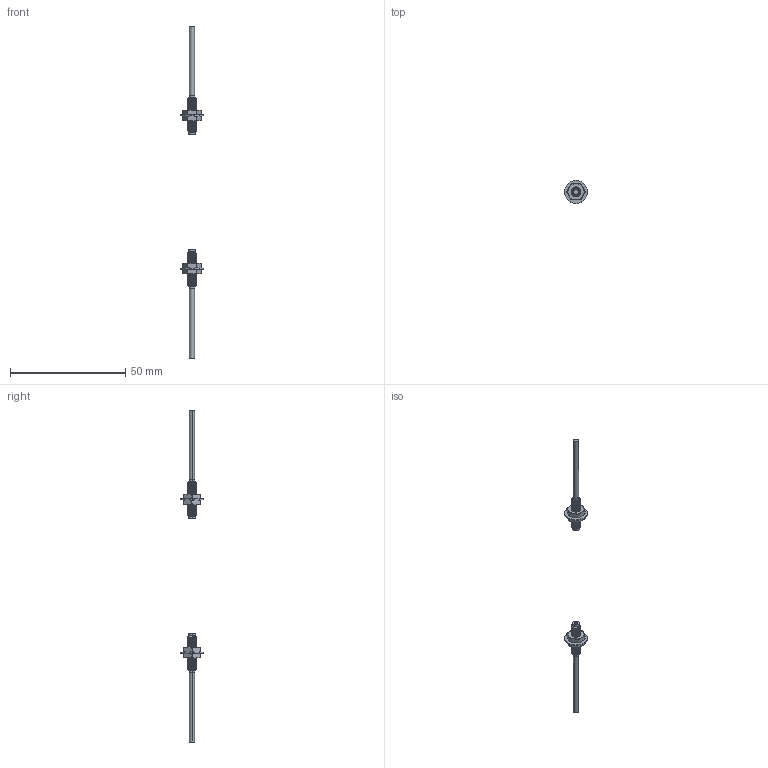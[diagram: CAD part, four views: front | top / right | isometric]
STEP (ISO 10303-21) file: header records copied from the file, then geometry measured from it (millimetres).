
FILE_DESCRIPTION (( 'STEP AP203' ), '1' );
FILE_NAME ('FQ-88.STEP', '2020-11-04T03:45:29', ( '' ), ( '' ), 'SwSTEP 2.0', 'SolidWorks 2020', '' );
FILE_SCHEMA (( 'CONFIG_CONTROL_DESIGN' ));
Length unit declared in the file: millimetre
Products named in the file (7): FQ-88; M4菜え____; FQ-88_R; M4蹟譫x2x2x2; FQ-88_T
Assembly tree (10 placements, depth 3):
  FQ-88
    FQ-88_T
      FQ-88_T
      M4蹟譫x2x2x2  x2
      M4菜え____
    FQ-88_R
      FQ-88_R
      M4菜え____
      M4蹟譫x2x2x2  x2
Bounding box: 10 x 10 x 144 mm (x, y, z)
Volume: 875.6 mm3; surface area: 1874.9 mm2
Topology: 8 solids, 8 shells, 238 faces, 616 edges, 404 vertices
Faces by surface type: cylinder 126, plane 50, cone 28, bspline 18, torus 16
Entity records: 13424 total; most frequent: CARTESIAN_POINT 9167, ORIENTED_EDGE 842, DIRECTION 608, EDGE_CURVE 421, VERTEX_POINT 279, AXIS2_PLACEMENT_3D 241, EDGE_LOOP 174, ADVANCED_FACE 160
